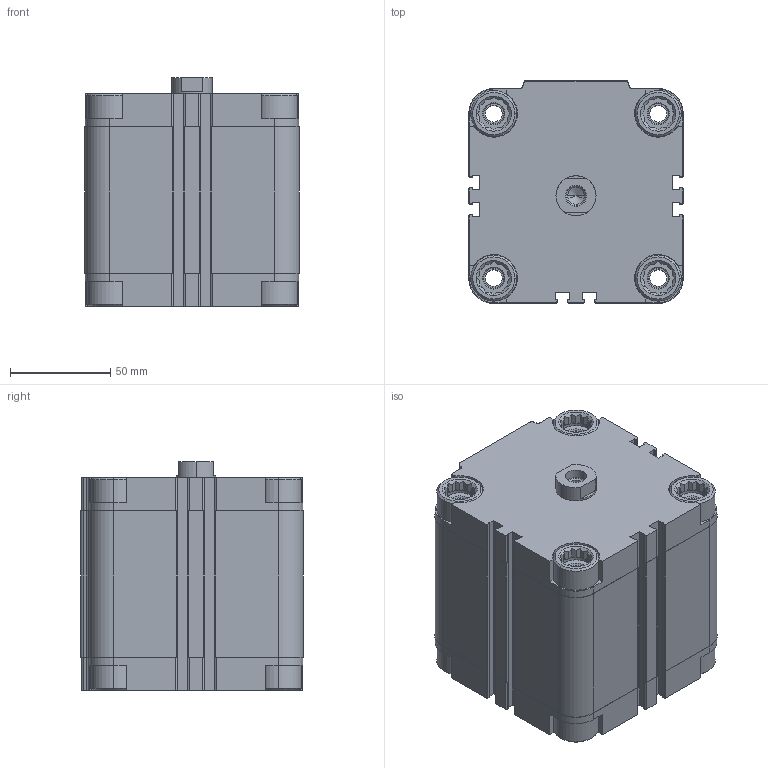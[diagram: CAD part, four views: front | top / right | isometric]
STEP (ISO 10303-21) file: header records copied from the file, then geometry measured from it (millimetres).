
FILE_DESCRIPTION (( 'STEP AP203' ), '1' );
FILE_NAME ('CDVU80-50F.STEP', '2020-03-30T15:04:08', ( '' ), ( '' ), 'SwSTEP 2.0', 'SolidWorks 2019', '' );
FILE_SCHEMA (( 'CONFIG_CONTROL_DESIGN' ));
Length unit declared in the file: millimetre
Products named in the file (1): CDVU80-50F
Bounding box: 107 x 111 x 114 mm (x, y, z)
Volume: 895961.3 mm3; surface area: 144880.7 mm2
Topology: 2 solids, 2 shells, 657 faces, 1778 edges, 1167 vertices
Faces by surface type: plane 389, cylinder 206, cone 62
Entity records: 20873 total; most frequent: CARTESIAN_POINT 4173, ORIENTED_EDGE 3544, DIRECTION 3384, EDGE_CURVE 1772, VERTEX_POINT 1167, AXIS2_PLACEMENT_3D 1146, VECTOR 1092, LINE 1092
